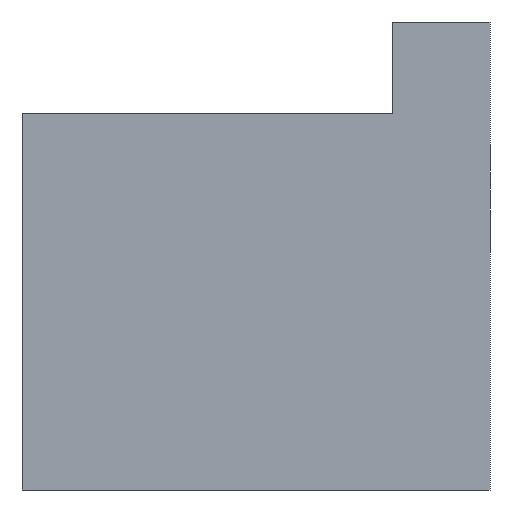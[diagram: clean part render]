
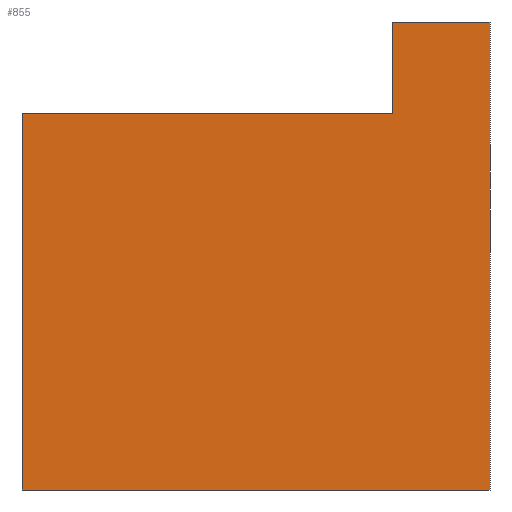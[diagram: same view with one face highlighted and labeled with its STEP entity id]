
A CAD part, front view. The second image highlights one B-rep face of the part: STEP entity #855.
In plain terms, the highlighted planar face has unit normal (0, -1, 0).
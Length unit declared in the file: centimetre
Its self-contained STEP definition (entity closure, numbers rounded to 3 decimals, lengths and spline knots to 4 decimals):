
#123 = AXIS2_PLACEMENT_3D ( 'NONE', #1001, #574, #670 ) ;
#144 = CARTESIAN_POINT ( 'NONE',  ( 1000., 0., 0. ) ) ;
#148 = CARTESIAN_POINT ( 'NONE',  ( 791.2663, 0., 803.5803 ) ) ;
#176 = VERTEX_POINT ( 'NONE', #475 ) ;
#206 = VERTEX_POINT ( 'NONE', #221 ) ;
#216 = EDGE_CURVE ( 'NONE', #176, #956, #217, .T. ) ;
#217 = LINE ( 'NONE', #148, #304 ) ;
#221 = CARTESIAN_POINT ( 'NONE',  ( 0., 0., 0. ) ) ;
#224 = CARTESIAN_POINT ( 'NONE',  ( 791.2663, 0., 1000. ) ) ;
#235 = DIRECTION ( 'NONE',  ( 0., 0., -1. ) ) ;
#259 = ORIENTED_EDGE ( 'NONE', *, *, #1036, .T. ) ;
#304 = VECTOR ( 'NONE', #646, 100. ) ;
#318 = VECTOR ( 'NONE', #655, 100. ) ;
#321 = LINE ( 'NONE', #980, #860 ) ;
#349 = VERTEX_POINT ( 'NONE', #1077 ) ;
#380 = DIRECTION ( 'NONE',  ( 1., 0., 0. ) ) ;
#385 = CARTESIAN_POINT ( 'NONE',  ( 791.2663, 0., 803.5803 ) ) ;
#393 = EDGE_CURVE ( 'NONE', #956, #349, #321, .T. ) ;
#422 = FACE_OUTER_BOUND ( 'NONE', #604, .T. ) ;
#475 = CARTESIAN_POINT ( 'NONE',  ( 791.2663, 0., 803.5803 ) ) ;
#480 = LINE ( 'NONE', #1049, #858 ) ;
#486 = DIRECTION ( 'NONE',  ( 1., 0., 0. ) ) ;
#496 = DIRECTION ( 'NONE',  ( 0., 0., -1. ) ) ;
#515 = EDGE_CURVE ( 'NONE', #206, #713, #711, .T. ) ;
#528 = ORIENTED_EDGE ( 'NONE', *, *, #971, .F. ) ;
#574 = DIRECTION ( 'NONE',  ( 0., 1., 0. ) ) ;
#604 = EDGE_LOOP ( 'NONE', ( #1021, #259, #850, #833, #528, #683 ) ) ;
#618 = CARTESIAN_POINT ( 'NONE',  ( 0., 0., 0. ) ) ;
#646 = DIRECTION ( 'NONE',  ( 0., 0., 1. ) ) ;
#655 = DIRECTION ( 'NONE',  ( -1., 0., 0. ) ) ;
#670 = DIRECTION ( 'NONE',  ( 0., 0., 1. ) ) ;
#673 = LINE ( 'NONE', #1006, #965 ) ;
#683 = ORIENTED_EDGE ( 'NONE', *, *, #393, .F. ) ;
#690 = VERTEX_POINT ( 'NONE', #878 ) ;
#711 = LINE ( 'NONE', #618, #1072 ) ;
#713 = VERTEX_POINT ( 'NONE', #144 ) ;
#763 = EDGE_CURVE ( 'NONE', #690, #206, #673, .T. ) ;
#800 = LINE ( 'NONE', #385, #318 ) ;
#833 = ORIENTED_EDGE ( 'NONE', *, *, #515, .T. ) ;
#850 = ORIENTED_EDGE ( 'NONE', *, *, #763, .T. ) ;
#855 = ADVANCED_FACE ( 'NONE', ( #422 ), #941, .F. ) ;
#858 = VECTOR ( 'NONE', #235, 100. ) ;
#860 = VECTOR ( 'NONE', #486, 100. ) ;
#878 = CARTESIAN_POINT ( 'NONE',  ( 0., 0., 803.5803 ) ) ;
#941 = PLANE ( 'NONE',  #123 ) ;
#956 = VERTEX_POINT ( 'NONE', #224 ) ;
#965 = VECTOR ( 'NONE', #496, 100. ) ;
#971 = EDGE_CURVE ( 'NONE', #349, #713, #480, .T. ) ;
#980 = CARTESIAN_POINT ( 'NONE',  ( 0., 0., 1000. ) ) ;
#1001 = CARTESIAN_POINT ( 'NONE',  ( 0., 0., 1000. ) ) ;
#1006 = CARTESIAN_POINT ( 'NONE',  ( 0., 0., 1000. ) ) ;
#1021 = ORIENTED_EDGE ( 'NONE', *, *, #216, .F. ) ;
#1036 = EDGE_CURVE ( 'NONE', #176, #690, #800, .T. ) ;
#1049 = CARTESIAN_POINT ( 'NONE',  ( 1000., 0., 1000. ) ) ;
#1072 = VECTOR ( 'NONE', #380, 100. ) ;
#1077 = CARTESIAN_POINT ( 'NONE',  ( 1000., 0., 1000. ) ) ;
